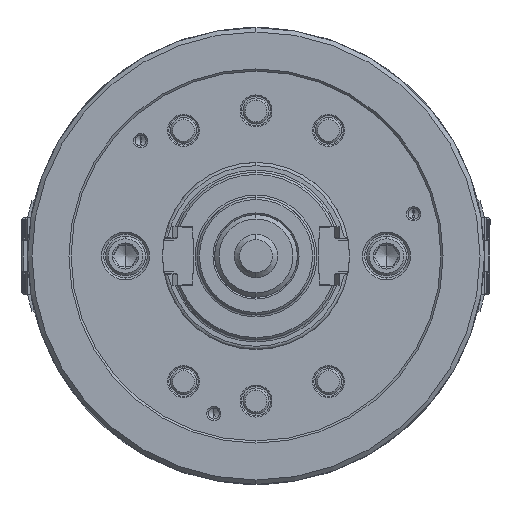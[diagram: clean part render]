
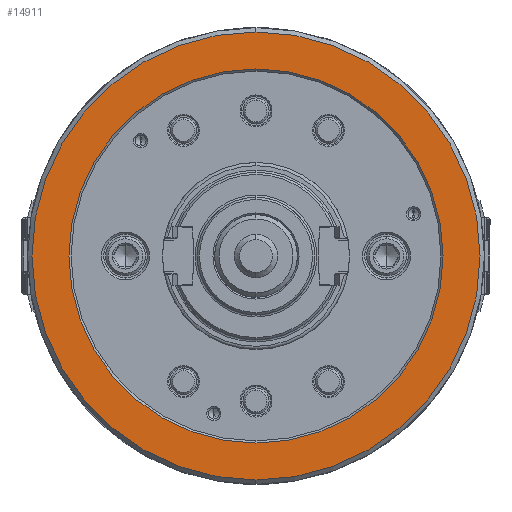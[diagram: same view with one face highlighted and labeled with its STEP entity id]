
A CAD part, left-side view. The second image highlights one B-rep face of the part: STEP entity #14911.
In plain terms, the highlighted planar face has unit normal (-1, 0, 0).
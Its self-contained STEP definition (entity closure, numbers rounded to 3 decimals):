
#3552 = ORIENTED_EDGE ( 'NONE', *, *, #67942, .T. ) ;
#9276 = AXIS2_PLACEMENT_3D ( 'NONE', #50705, #65274, #72527 ) ;
#13724 = VERTEX_POINT ( 'NONE', #20723 ) ;
#14911 = ADVANCED_FACE ( 'NONE', ( #45356, #23617 ), #52626, .F. ) ;
#19122 = CARTESIAN_POINT ( 'NONE',  ( -85., 0., 103. ) ) ;
#20723 = CARTESIAN_POINT ( 'NONE',  ( -85., 0., 86. ) ) ;
#22933 = ORIENTED_EDGE ( 'NONE', *, *, #51467, .F. ) ;
#23617 = FACE_BOUND ( 'NONE', #83672, .T. ) ;
#25670 = CARTESIAN_POINT ( 'NONE',  ( -85., 0., 0. ) ) ;
#25773 = VERTEX_POINT ( 'NONE', #34391 ) ;
#33393 = DIRECTION ( 'NONE',  ( 1., 0., 0. ) ) ;
#34391 = CARTESIAN_POINT ( 'NONE',  ( -85., 0., -86. ) ) ;
#37079 = ORIENTED_EDGE ( 'NONE', *, *, #61248, .F. ) ;
#39547 = AXIS2_PLACEMENT_3D ( 'NONE', #25670, #33393, #61991 ) ;
#39782 = ORIENTED_EDGE ( 'NONE', *, *, #43463, .T. ) ;
#40343 = AXIS2_PLACEMENT_3D ( 'NONE', #60965, #89040, #81782 ) ;
#42658 = CIRCLE ( 'NONE', #39547, 103. ) ;
#43183 = CIRCLE ( 'NONE', #94197, 86. ) ;
#43463 = EDGE_CURVE ( 'NONE', #25773, #13724, #43183, .T. ) ;
#45356 = FACE_OUTER_BOUND ( 'NONE', #82724, .T. ) ;
#49028 = CARTESIAN_POINT ( 'NONE',  ( -85., 0., -103. ) ) ;
#50705 = CARTESIAN_POINT ( 'NONE',  ( -85., 0., 0. ) ) ;
#50948 = CIRCLE ( 'NONE', #9276, 86. ) ;
#51467 = EDGE_CURVE ( 'NONE', #76111, #58202, #42658, .T. ) ;
#52626 = PLANE ( 'NONE',  #86747 ) ;
#53570 = CARTESIAN_POINT ( 'NONE',  ( -85., -103., 0. ) ) ;
#55511 = CARTESIAN_POINT ( 'NONE',  ( -85., 0., 0. ) ) ;
#58202 = VERTEX_POINT ( 'NONE', #19122 ) ;
#60965 = CARTESIAN_POINT ( 'NONE',  ( -85., 0., 0. ) ) ;
#61248 = EDGE_CURVE ( 'NONE', #58202, #76111, #75986, .T. ) ;
#61991 = DIRECTION ( 'NONE',  ( 0., 0., -1. ) ) ;
#65274 = DIRECTION ( 'NONE',  ( 1., 0., 0. ) ) ;
#67942 = EDGE_CURVE ( 'NONE', #13724, #25773, #50948, .T. ) ;
#68140 = DIRECTION ( 'NONE',  ( 0., 0., -1. ) ) ;
#70536 = DIRECTION ( 'NONE',  ( 0., 0., -1. ) ) ;
#72527 = DIRECTION ( 'NONE',  ( 0., 0., -1. ) ) ;
#75986 = CIRCLE ( 'NONE', #40343, 103. ) ;
#76111 = VERTEX_POINT ( 'NONE', #49028 ) ;
#81782 = DIRECTION ( 'NONE',  ( 0., 0., -1. ) ) ;
#82724 = EDGE_LOOP ( 'NONE', ( #22933, #37079 ) ) ;
#83672 = EDGE_LOOP ( 'NONE', ( #3552, #39782 ) ) ;
#85052 = DIRECTION ( 'NONE',  ( 1., 0., 0. ) ) ;
#86747 = AXIS2_PLACEMENT_3D ( 'NONE', #53570, #89415, #68140 ) ;
#89040 = DIRECTION ( 'NONE',  ( 1., 0., 0. ) ) ;
#89415 = DIRECTION ( 'NONE',  ( 1., 0., 0. ) ) ;
#94197 = AXIS2_PLACEMENT_3D ( 'NONE', #55511, #85052, #70536 ) ;
